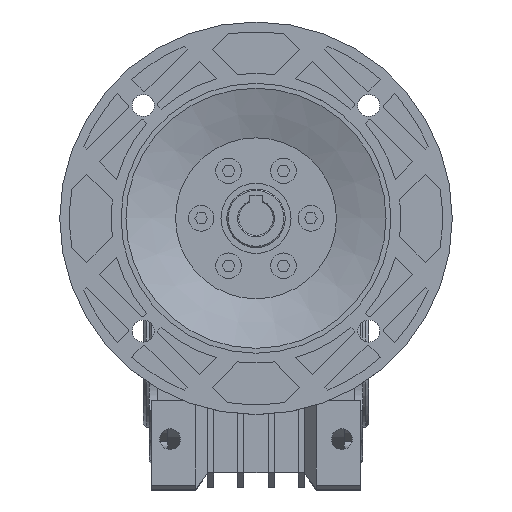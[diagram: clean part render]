
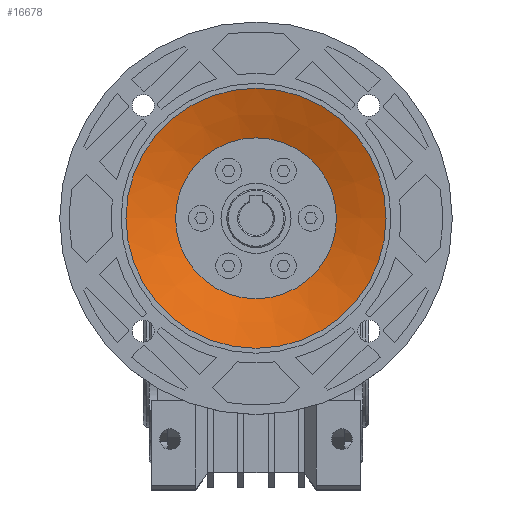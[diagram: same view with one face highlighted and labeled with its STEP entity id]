
A CAD part, top view. The second image highlights one B-rep face of the part: STEP entity #16678.
In plain terms, the highlighted conical face has half-angle 70.638 degrees and reference radius 32.795 mm.
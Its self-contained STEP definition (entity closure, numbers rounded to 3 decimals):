
#69=CONICAL_SURFACE('',#18082,32.795,1.233);
#1214=FACE_OUTER_BOUND('',#2189,.T.);
#2189=EDGE_LOOP('',(#13433,#13434,#13435,#13436));
#3636=LINE('',#27054,#5199);
#5199=VECTOR('',#21941,32.795);
#6058=CIRCLE('',#18073,32.795);
#6066=CIRCLE('',#18083,53.);
#7349=VERTEX_POINT('',#27034);
#7357=VERTEX_POINT('',#27053);
#9444=EDGE_CURVE('',#7349,#7349,#6058,.T.);
#9453=EDGE_CURVE('',#7349,#7357,#3636,.T.);
#9454=EDGE_CURVE('',#7357,#7357,#6066,.T.);
#13433=ORIENTED_EDGE('',*,*,#9444,.T.);
#13434=ORIENTED_EDGE('',*,*,#9453,.T.);
#13435=ORIENTED_EDGE('',*,*,#9454,.F.);
#13436=ORIENTED_EDGE('',*,*,#9453,.F.);
#16678=ADVANCED_FACE('',(#1214),#69,.F.);
#18073=AXIS2_PLACEMENT_3D('',#27035,#21920,#21921);
#18082=AXIS2_PLACEMENT_3D('',#27052,#21939,#21940);
#18083=AXIS2_PLACEMENT_3D('',#27055,#21942,#21943);
#21920=DIRECTION('center_axis',(0.,0.,
-1.));
#21921=DIRECTION('ref_axis',(-1.,0.,0.));
#21939=DIRECTION('center_axis',(0.,0.,
1.));
#21940=DIRECTION('ref_axis',(1.,0.,0.));
#21941=DIRECTION('',(-0.943,0.,0.332));
#21942=DIRECTION('center_axis',(0.,0.,
-1.));
#21943=DIRECTION('ref_axis',(-1.,0.,0.));
#27034=CARTESIAN_POINT('',(109.968,223.623,192.362));
#27035=CARTESIAN_POINT('Origin',(142.763,223.623,192.362));
#27052=CARTESIAN_POINT('Origin',(142.763,223.623,192.362));
#27053=CARTESIAN_POINT('',(89.763,223.623,199.462));
#27054=CARTESIAN_POINT('',(109.968,223.623,192.362));
#27055=CARTESIAN_POINT('Origin',(142.763,223.623,199.462));
